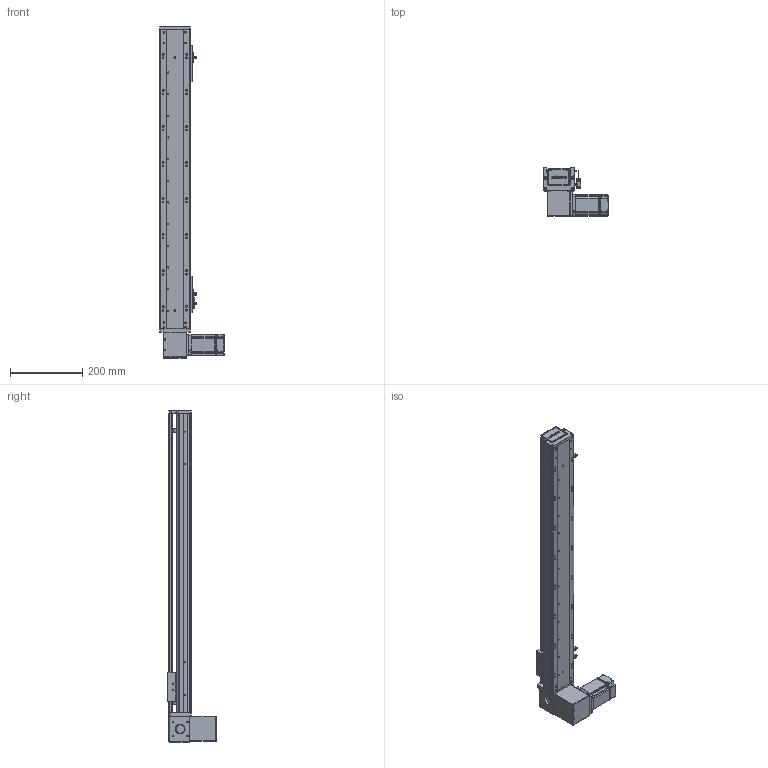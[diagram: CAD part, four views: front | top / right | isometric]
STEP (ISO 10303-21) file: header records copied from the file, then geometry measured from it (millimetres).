
FILE_DESCRIPTION (( 'STEP AP203' ), '1' );
FILE_NAME ('RY80-T-300-DR.SLDASM_650.step', '2021-03-01T01:49:37', ( '盈信电脑' ), ( '东莞市道滘镇水果街19号' ), 'SwSTEP 2.0', 'SolidWorks 2012', '' );
FILE_SCHEMA (( 'CONFIG_CONTROL_DESIGN' ));
Length unit declared in the file: millimetre
Products named in the file (18): RY80-T-300-DR.SLDASM_650; 1; RY80-T萇儂假蚾啣; RY80-T肮祭謫狟殏俋欶; RY80-T-M4蹟翐3; RY80-T翋肮祭謫裔啣; RY80-T-上下折同步轮盖板; 滅袉蝶18-10; RY80-T-翋肮祭謫釱; RY80俋离覜茼え; RY80-T肮祭湍揤輸1; RY80-T肮祭湍揤輸2; 672嫖萇羲壽假蚾釱; 覜茼ん672; RY80-T綴裔啣; RY80-T-300-DR倰第奻裔啣_650; RY80-T-300-DR倰第菁釱_650; RY80-T肮祭謫臏賑輸
Assembly tree (21 placements, depth 2):
  RY80-T-300-DR.SLDASM_650
    RY80-T-300-DR倰第菁釱_650
    RY80-T肮祭謫臏賑輸
    RY80-T-300-DR倰第奻裔啣_650
    RY80-T綴裔啣
    672嫖萇羲壽假蚾釱  x2
    覜茼ん672  x3
    RY80俋离覜茼え
    RY80-T-翋肮祭謫釱
    RY80-T肮祭湍揤輸1
    RY80-T肮祭湍揤輸2
    滅袉蝶18-10  x2
    RY80-T翋肮祭謫裔啣
    RY80-T-上下折同步轮盖板
    RY80-T肮祭謫狟殏俋欶
    RY80-T萇儂假蚾啣
    1
    RY80-T-M4蹟翐3
Bounding box: 180 x 134.5 x 920 mm (x, y, z)
Volume: 1708644 mm3; surface area: 701225.6 mm2
Topology: 21 solids, 21 shells, 2444 faces, 6768 edges, 4394 vertices
Faces by surface type: plane 1315, cylinder 931, cone 142, bspline 56
Entity records: 78298 total; most frequent: CARTESIAN_POINT 19362, ORIENTED_EDGE 12180, DIRECTION 11358, EDGE_CURVE 6090, VERTEX_POINT 3998, AXIS2_PLACEMENT_3D 3810, LINE 3738, VECTOR 3738
